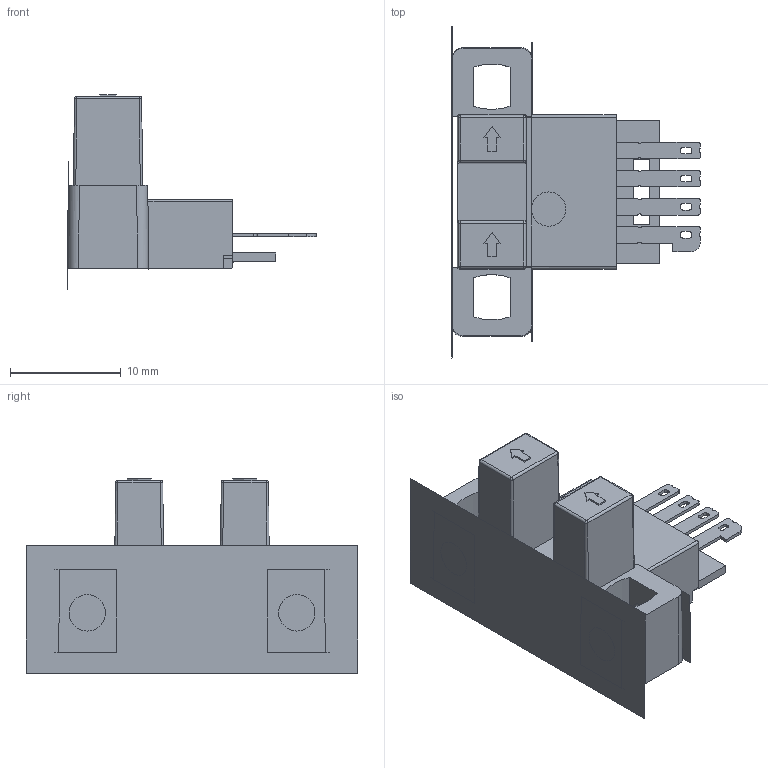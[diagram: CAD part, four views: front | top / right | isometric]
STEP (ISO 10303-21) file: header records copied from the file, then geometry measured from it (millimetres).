
FILE_DESCRIPTION((''),'2;1');
FILE_NAME('FF-U671QJ_ASM','2018-07-23T17:07:50',('Administrator'),(''),'CREO PARAMETRIC BY PTC INC, 2016390','CREO PARAMETRIC BY PTC INC, 2016390','');
FILE_SCHEMA(('CONFIG_CONTROL_DESIGN'));
Length unit declared in the file: millimetre
Products named in the file (4): FF-U67100; PCB; TOPCOVER; FF-U671QJ_ASM
Assembly tree (3 placements, depth 2):
  FF-U671QJ_ASM
    FF-U67100
    PCB
    TOPCOVER
Bounding box: 22.51 x 30 x 17.58 mm (x, y, z)
Volume: 1429.6 mm3; surface area: 3652.4 mm2
Topology: 3 solids, 5 shells, 306 faces, 852 edges, 553 vertices
Faces by surface type: plane 222, cylinder 76, sphere 8
Entity records: 9856 total; most frequent: CARTESIAN_POINT 1847, ORIENTED_EDGE 1680, DIRECTION 1572, EDGE_CURVE 844, VECTOR 690, LINE 690, VERTEX_POINT 553, AXIS2_PLACEMENT_3D 441
